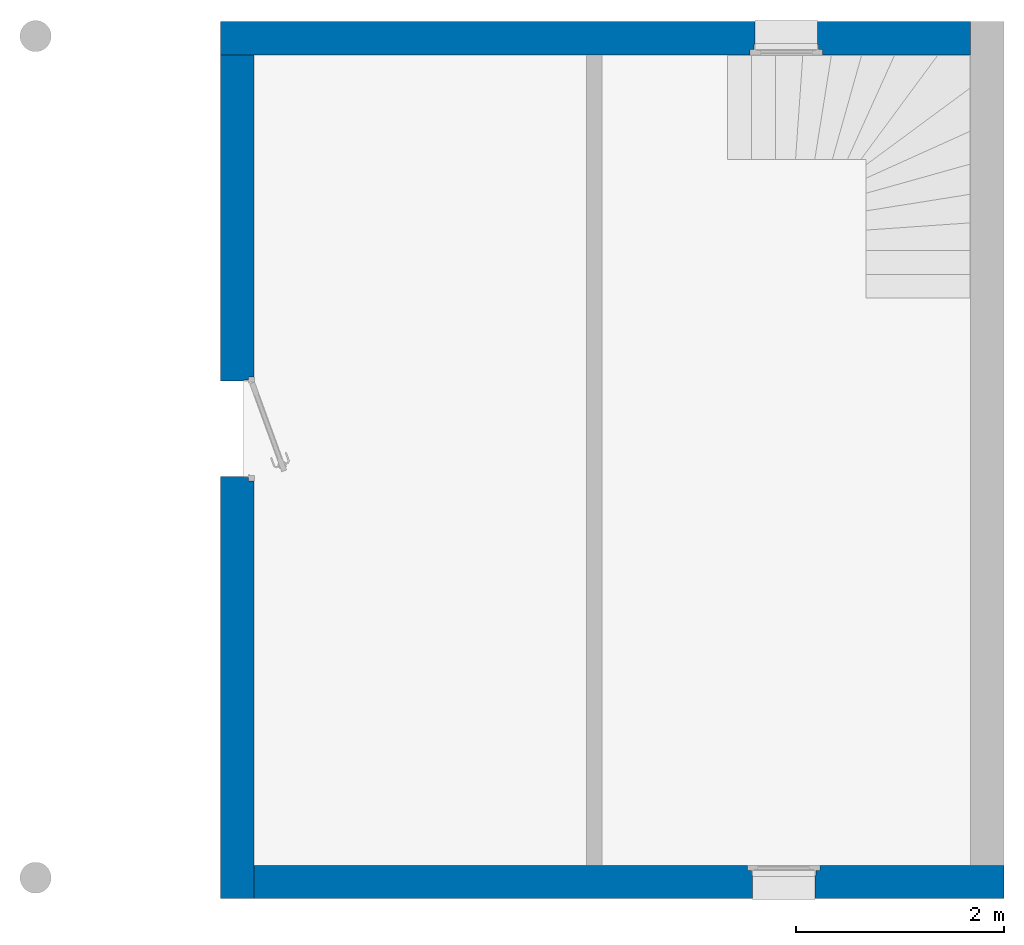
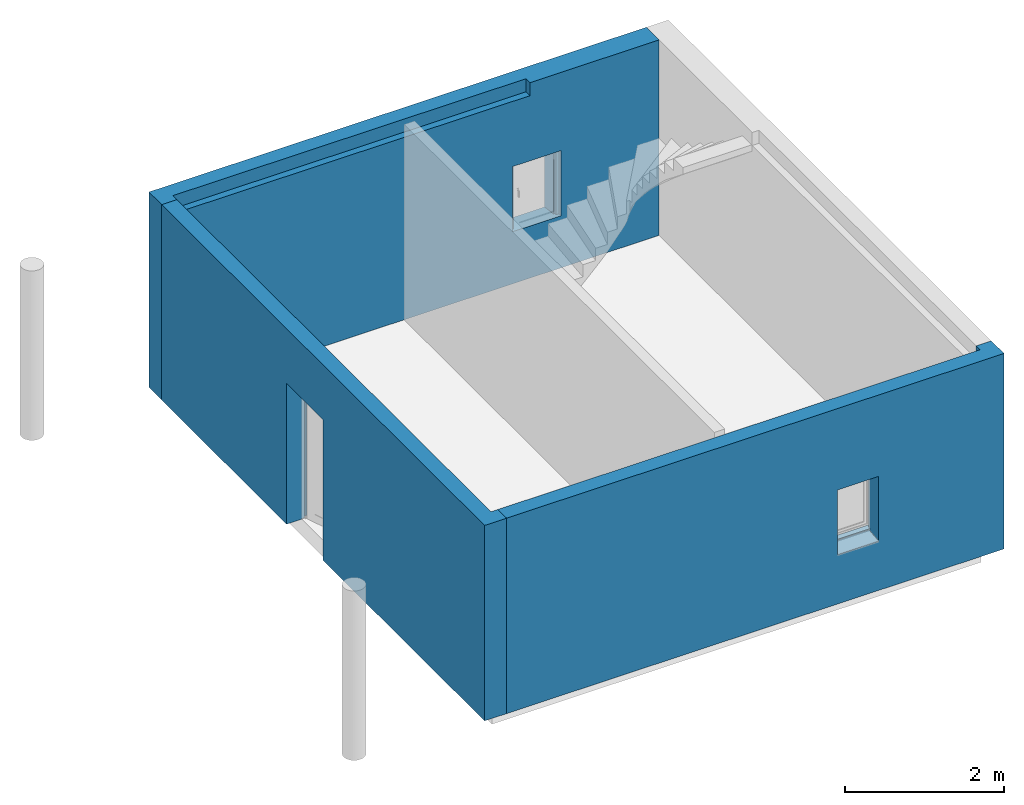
# One storey, part 2 of 4: 3 walls.
"""IFC2X3 building model written with IfcOpenShell, lengths in metres."""

from ifc_helpers import new_model, entity, si_unit, converted_unit, derived_unit, direction, frame, origin, place, context, subcontext, project, spatial, faceted_brep, material, material_list, type_object, element, save


model = new_model("IFC2X3")

# Units and contexts
model_context = context("Model", 3, precision=1e-05, world=origin(), true_north=direction((6.12303176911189e-17, 1.0)))
context_of_model = context(None, 3, precision=1e-05, world=origin(), true_north=direction((6.12303176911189e-17, 1.0)))
body_context = subcontext(model_context, "Body", "Model", "MODEL_VIEW")
ifc_project = project(units=[si_unit("LENGTHUNIT", "METRE"), si_unit("AREAUNIT", "SQUARE_METRE"), si_unit("VOLUMEUNIT", "CUBIC_METRE"), converted_unit("PLANEANGLEUNIT", "DEGREE", entity("IfcRatioMeasure", 0.0174532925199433), si_unit("PLANEANGLEUNIT", "RADIAN"), dimensions=[0, 0, 0, 0, 0, 0, 0]), si_unit("MASSUNIT", "GRAM", prefix="KILO"), si_unit("TIMEUNIT", "SECOND"), si_unit("FREQUENCYUNIT", "HERTZ"), si_unit("THERMODYNAMICTEMPERATUREUNIT", "DEGREE_CELSIUS"), derived_unit("THERMALTRANSMITTANCEUNIT", [(si_unit("MASSUNIT", "GRAM", prefix="KILO"), 1), (si_unit("THERMODYNAMICTEMPERATUREUNIT", "KELVIN"), -1), (si_unit("TIMEUNIT", "SECOND"), -3)]), derived_unit("VOLUMETRICFLOWRATEUNIT", [(si_unit("LENGTHUNIT", "METRE"), 3), (si_unit("TIMEUNIT", "SECOND"), -1)]), si_unit("ELECTRICCURRENTUNIT", "AMPERE"), si_unit("ELECTRICVOLTAGEUNIT", "VOLT"), si_unit("POWERUNIT", "WATT"), si_unit("FORCEUNIT", "NEWTON", prefix="KILO"), si_unit("ILLUMINANCEUNIT", "LUX"), si_unit("LUMINOUSFLUXUNIT", "LUMEN"), si_unit("LUMINOUSINTENSITYUNIT", "CANDELA"), si_unit("PRESSUREUNIT", "PASCAL")], contexts=[model_context, context_of_model])

# Site, building, storey
site_placement = place(None, origin())
site = spatial("IfcSite", under=ifc_project, at=site_placement, Name="Default", CompositionType="ELEMENT")
building_placement = place(site_placement, origin())
building = spatial("IfcBuilding", under=site, at=building_placement, CompositionType="ELEMENT")
storey_placement = place(building_placement, origin())
storey = spatial("IfcBuildingStorey", under=building, at=storey_placement, Name="Niveau 0", CompositionType="ELEMENT", Elevation=-1.94916083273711e-14)

# Walls
ifc_material_1 = material(Name="Maçonnerie - Enduit")
ifc_material_2 = material(Name="Blocs béton manufacturés")
ifc_material_3 = material(Name="Maçonnerie - Isolant")
ifc_material_list_1 = material_list([ifc_material_1, ifc_material_2, ifc_material_3])
wall_type = type_object("IfcWallType", Name="Mur de base:Ext. Parpaing 20 + Isolant 10", PredefinedType="NOTDEFINED")
wall_1_placement = place(storey_placement, frame((-9.46242592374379, 5.05538687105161, 0.0)))
element("IfcWall", 1, at=wall_1_placement, inside=storey, type_object=wall_type, material=ifc_material_list_1, Name="Mur de base:Ext. Parpaing 20 + Isolant 10", ObjectType="Mur de base:Ext. Parpaing 20 + Isolant 10", context=body_context, shape_type="Brep", body=[
    faceted_brep([(0.0, -0.159999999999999, 0.0), (0.32, -0.159999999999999, 0.0), (3.52, -0.159999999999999, 0.0), (3.67, -0.159999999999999, 0.0), (7.21999999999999, -0.159999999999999, 0.0), (7.21999999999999, -0.159999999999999, 3.0), (5.34453208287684, -0.159999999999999, 3.0), (5.34453208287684, -0.159999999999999, 2.8), (0.320000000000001, -0.159999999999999, 2.8), (0.220000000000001, -0.159999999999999, 2.8), (0.220000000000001, -0.159999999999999, 3.0), (0.0, -0.159999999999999, 3.0), (5.79499999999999, -0.159999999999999, 0.8), (5.09499999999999, -0.159999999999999, 0.8), (5.09499999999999, -0.159999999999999, 1.8), (5.79499999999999, -0.159999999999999, 1.8), (7.21999999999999, 0.16, 0.0), (0.0, 0.16, 0.0), (0.0, 0.16, 3.0), (3.52427478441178, 0.16, 3.0), (7.21999999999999, 0.16, 3.0), (5.14499999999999, 0.16, 1.75), (5.14499999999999, 0.16, 0.759774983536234), (5.74499999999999, 0.16, 0.759774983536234), (5.74499999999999, 0.16, 1.75), (0.0, -0.0599999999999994, 3.0), (0.220000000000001, -0.0600000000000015, 3.0), (3.52427478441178, -0.0600000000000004, 3.0), (5.34453208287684, -0.0600000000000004, 3.0), (5.34453208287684, -0.0600000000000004, 2.8), (0.220000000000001, -0.0600000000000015, 2.8), (5.14499999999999, -0.0800000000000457, 0.8), (5.14499999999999, -0.0800000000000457, 0.785), (5.14499999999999, -0.0599999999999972, 1.75), (5.14499999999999, -0.0599999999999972, 0.8), (5.74499999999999, -0.0800000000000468, 0.785), (5.74499999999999, -0.0800000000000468, 0.8), (5.74499999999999, -0.0599999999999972, 0.8), (5.74499999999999, -0.0599999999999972, 1.75), (5.13499999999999, -0.0599999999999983, 0.8), (5.13499999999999, -0.110000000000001, 0.8), (5.09499999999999, -0.110000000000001, 0.8), (5.79499999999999, -0.110000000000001, 0.8), (5.75499999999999, -0.110000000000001, 0.8), (5.75499999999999, -0.0599999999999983, 0.8), (5.09499999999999, -0.110000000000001, 1.8), (5.13499999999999, -0.110000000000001, 1.76), (5.75499999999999, -0.110000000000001, 1.76), (5.79499999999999, -0.110000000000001, 1.8), (5.13499999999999, -0.0599999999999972, 1.76), (5.75499999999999, -0.0599999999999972, 1.76)], [[[0, 1, 2, 3, 4, 5, 6, 7, 8, 9, 10, 11], [12, 13, 14, 15]], [[16, 17, 18, 19, 20], [21, 22, 23, 24]], [[4, 3, 2, 1, 0, 17, 16]], [[20, 19, 18, 25, 11, 10, 26, 27, 28, 6, 5]], [[0, 11, 25, 18, 17]], [[5, 4, 16, 20]], [[29, 30, 9, 8, 7]], [[30, 26, 10, 9]], [[30, 29, 28, 27, 26]], [[31, 32, 22, 21, 33, 34]], [[35, 36, 37, 38, 24, 23]], [[22, 32, 35, 23]], [[32, 31, 36, 35]], [[33, 21, 24, 38]], [[31, 34, 39, 40, 41, 13, 12, 42, 43, 44, 37, 36]], [[13, 41, 45, 14]], [[41, 40, 46, 47, 43, 42, 48, 45]], [[40, 39, 49, 46]], [[34, 33, 38, 37, 44, 50, 49, 39]], [[14, 45, 48, 15]], [[47, 46, 49, 50]], [[42, 12, 15, 48]], [[44, 43, 47, 50]], [[28, 29, 7, 6]]]),
])
ifc_material_list_2 = material_list([ifc_material_1, ifc_material_2, ifc_material_3])
wall_2_placement = place(storey_placement, frame((-9.30242592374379, -3.22461312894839, 0.0), z_axis=(0.0, 0.0, 1.0), x_axis=(0.0, 1.0, 0.0)))
element("IfcWall", 2, at=wall_2_placement, inside=storey, type_object=wall_type, material=ifc_material_list_2, Name="Mur de base:Ext. Parpaing 20 + Isolant 10", ObjectType="Mur de base:Ext. Parpaing 20 + Isolant 10", context=body_context, shape_type="Brep", body=[
    faceted_brep([(0.0, -0.159999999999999, 3.0), (0.0, -0.159999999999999, 0.0), (0.32, -0.159999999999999, 0.0), (4.02000000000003, -0.159999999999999, 0.0), (4.02000000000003, -0.159999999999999, 2.2), (5.02000000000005, -0.159999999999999, 2.2), (5.02000000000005, -0.159999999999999, 0.0), (8.12, -0.159999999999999, 0.0), (8.12, -0.159999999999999, 2.8), (0.32, -0.159999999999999, 2.8), (0.22, -0.159999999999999, 2.8), (0.220000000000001, -0.159999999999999, 3.0), (0.0, 0.16, 3.0), (8.12, 0.16, 3.0), (8.12, 0.16, 0.0), (4.98000000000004, 0.16, 0.0), (4.98000000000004, 0.16, 2.15999999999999), (4.06000000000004, 0.16, 2.15999999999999), (4.06000000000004, 0.16, 0.0), (0.0, 0.16, 0.0), (4.06000000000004, -0.0600000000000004, 0.0), (4.05000000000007, -0.0599999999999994, 0.0), (4.05000000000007, -0.107999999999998, 0.0), (4.02000000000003, -0.107999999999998, 0.0), (0.22, -0.0600000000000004, 3.0), (8.12, -0.0600000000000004, 3.0), (8.12, -0.0600000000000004, 2.8), (0.22, -0.0600000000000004, 2.8), (4.98000000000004, -0.0599999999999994, 2.15999999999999), (4.06000000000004, -0.0599999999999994, 2.15999999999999), (4.98000000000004, -0.0599999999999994, 0.0), (4.05000000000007, -0.107999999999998, 2.16999999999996), (4.99000000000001, -0.107999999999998, 2.16999999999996), (4.99000000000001, -0.107999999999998, 0.0), (5.02000000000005, -0.107999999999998, 0.0), (5.02000000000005, -0.107999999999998, 2.2), (4.02000000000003, -0.107999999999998, 2.2), (4.05000000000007, -0.0599999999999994, 2.16999999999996), (4.99000000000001, -0.0599999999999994, 0.0), (4.99000000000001, -0.0599999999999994, 2.16999999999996)], [[[0, 1, 2, 3, 4, 5, 6, 7, 8, 9, 10, 11]], [[12, 13, 14, 15, 16, 17, 18, 19]], [[1, 19, 18, 20, 21, 22, 23, 3, 2]], [[13, 12, 0, 11, 24, 25]], [[1, 0, 12, 19]], [[7, 14, 13, 25, 26, 8]], [[26, 27, 10, 9, 8]], [[27, 24, 11, 10]], [[24, 27, 26, 25]], [[28, 29, 17, 16]], [[30, 28, 16, 15]], [[29, 20, 18, 17]], [[22, 31, 32, 33, 34, 35, 36, 23]], [[31, 22, 21, 37]], [[29, 28, 30, 38, 39, 37, 21, 20]], [[23, 36, 4, 3]], [[32, 31, 37, 39]], [[36, 35, 5, 4]], [[33, 32, 39, 38]], [[35, 34, 6, 5]], [[14, 7, 6, 34, 33, 38, 30, 15]]]),
])
ifc_material_list_3 = material_list([ifc_material_1, ifc_material_2, ifc_material_3])
wall_3_placement = place(storey_placement, frame((-1.9224259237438, -3.06461312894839, 0.0), z_axis=(0.0, 0.0, 1.0), x_axis=(-1.0, 0.0, 0.0)))
element("IfcWall", 3, at=wall_3_placement, inside=storey, type_object=wall_type, material=ifc_material_list_3, Name="Mur de base:Ext. Parpaing 20 + Isolant 10", ObjectType="Mur de base:Ext. Parpaing 20 + Isolant 10", context=body_context, shape_type="Brep", body=[
    faceted_brep([(0.0, -0.16, 0.0), (0.32, -0.16, 0.0), (3.87, -0.16, 0.0), (4.02, -0.16, 0.0), (7.21999999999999, -0.16, 0.0), (7.21999999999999, -0.16, 2.8), (0.319999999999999, -0.16, 2.8), (0.22, -0.16, 2.8), (0.22, -0.16, 3.0), (0.0, -0.16, 3.0), (2.47, -0.16, 0.8), (1.77, -0.16, 0.8), (1.77, -0.16, 1.8), (2.47, -0.16, 1.8), (7.21999999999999, 0.16, 0.0), (0.0, 0.16, 0.0), (0.0, 0.16, 3.0), (3.6957252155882, 0.159999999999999, 3.0), (4.0157252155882, 0.16, 3.0), (7.21999999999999, 0.16, 3.0), (1.82, 0.159999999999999, 1.75), (1.82, 0.159999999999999, 0.759774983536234), (2.42, 0.159999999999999, 0.759774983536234), (2.42, 0.159999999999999, 1.75), (0.22, -0.0600000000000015, 3.0), (4.0157252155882, -0.060000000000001, 3.0), (7.21999999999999, -0.0600000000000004, 3.0), (7.21999999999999, -0.0600000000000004, 2.8), (0.22, -0.0600000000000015, 2.8), (1.82, -0.0800000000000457, 0.8), (1.82, -0.0800000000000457, 0.785), (1.82, -0.0599999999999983, 1.75), (1.82, -0.0599999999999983, 0.8), (2.42, -0.0800000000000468, 0.785), (2.42, -0.0800000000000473, 0.8), (2.42, -0.0599999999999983, 0.8), (2.42, -0.0599999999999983, 1.75), (1.81, -0.0599999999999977, 0.8), (1.81, -0.110000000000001, 0.8), (1.77, -0.110000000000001, 0.8), (2.47, -0.110000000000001, 0.8), (2.43, -0.110000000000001, 0.8), (2.43, -0.0599999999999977, 0.8), (1.77, -0.110000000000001, 1.8), (1.81, -0.110000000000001, 1.76), (2.43, -0.110000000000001, 1.76), (2.47, -0.110000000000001, 1.8), (1.81, -0.0599999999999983, 1.76), (2.43, -0.0599999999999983, 1.76)], [[[0, 1, 2, 3, 4, 5, 6, 7, 8, 9], [10, 11, 12, 13]], [[14, 15, 16, 17, 18, 19], [20, 21, 22, 23]], [[4, 3, 2, 1, 0, 15, 14]], [[19, 18, 17, 16, 9, 8, 24, 25, 26]], [[0, 9, 16, 15]], [[4, 14, 19, 26, 27, 5]], [[27, 28, 7, 6, 5]], [[28, 24, 8, 7]], [[24, 28, 27, 26, 25]], [[29, 30, 21, 20, 31, 32]], [[33, 34, 35, 36, 23, 22]], [[21, 30, 33, 22]], [[30, 29, 34, 33]], [[31, 20, 23, 36]], [[29, 32, 37, 38, 39, 11, 10, 40, 41, 42, 35, 34]], [[11, 39, 43, 12]], [[39, 38, 44, 45, 41, 40, 46, 43]], [[38, 37, 47, 44]], [[32, 31, 36, 35, 42, 48, 47, 37]], [[12, 43, 46, 13]], [[45, 44, 47, 48]], [[40, 10, 13, 46]], [[42, 41, 45, 48]]]),
])

save(model, "model.ifc")
